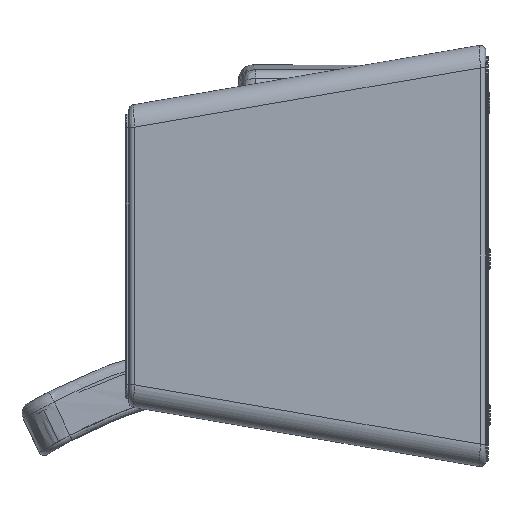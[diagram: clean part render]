
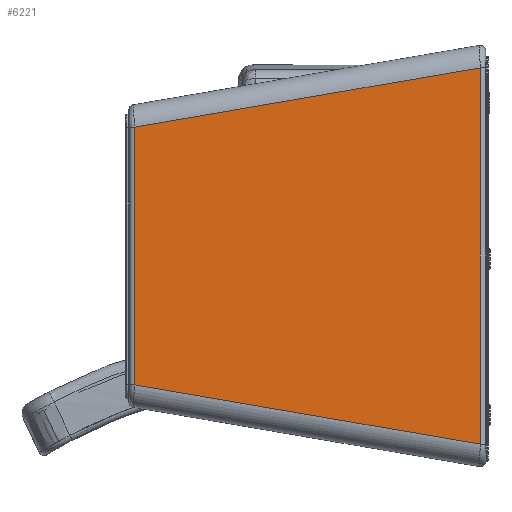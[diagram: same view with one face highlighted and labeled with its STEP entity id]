
A CAD part, left-side view. The second image highlights one B-rep face of the part: STEP entity #6221.
In plain terms, the highlighted planar face has unit normal (-1, 0, 0).
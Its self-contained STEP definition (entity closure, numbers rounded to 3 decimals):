
#438=PLANE('',#6977);
#786=LINE('',#16774,#1175);
#789=LINE('',#17826,#1178);
#792=LINE('',#18372,#1181);
#793=LINE('',#18374,#1182);
#1175=VECTOR('',#8673,1000.);
#1178=VECTOR('',#8690,1000.);
#1181=VECTOR('',#8701,1000.);
#1182=VECTOR('',#8704,1000.);
#1729=FACE_OUTER_BOUND('',#2219,.T.);
#2219=EDGE_LOOP('',(#5557,#5558,#5559,#5560));
#3120=VERTEX_POINT('',#16197);
#3125=VERTEX_POINT('',#16772);
#3129=VERTEX_POINT('',#17333);
#3134=VERTEX_POINT('',#17824);
#3940=EDGE_CURVE('',#3120,#3125,#786,.T.);
#3956=EDGE_CURVE('',#3129,#3134,#789,.T.);
#3965=EDGE_CURVE('',#3134,#3120,#792,.T.);
#3966=EDGE_CURVE('',#3125,#3129,#793,.T.);
#5557=ORIENTED_EDGE('',*,*,#3966,.T.);
#5558=ORIENTED_EDGE('',*,*,#3956,.T.);
#5559=ORIENTED_EDGE('',*,*,#3965,.T.);
#5560=ORIENTED_EDGE('',*,*,#3940,.T.);
#6221=ADVANCED_FACE('',(#1729),#438,.T.);
#6977=AXIS2_PLACEMENT_3D('',#18375,#8705,#8706);
#8673=DIRECTION('',(0.,0.,-1.));
#8690=DIRECTION('',(0.,0.,1.));
#8701=DIRECTION('',(0.,0.986,-0.169));
#8704=DIRECTION('',(0.,-0.986,-0.169));
#8705=DIRECTION('center_axis',(-1.,0.,0.));
#8706=DIRECTION('ref_axis',(0.,0.,1.));
#16197=CARTESIAN_POINT('',(-465.,639.,235.502));
#16772=CARTESIAN_POINT('',(-465.,639.,-226.944));
#16774=CARTESIAN_POINT('',(-465.,639.,0.));
#17333=CARTESIAN_POINT('',(-465.,18.,-333.512));
#17824=CARTESIAN_POINT('',(-465.,18.,342.07));
#17826=CARTESIAN_POINT('',(-465.,18.,0.));
#18372=CARTESIAN_POINT('',(-465.,642.235,234.947));
#18374=CARTESIAN_POINT('',(-465.,56.111,-326.972));
#18375=CARTESIAN_POINT('Origin',(-465.,0.,0.));
